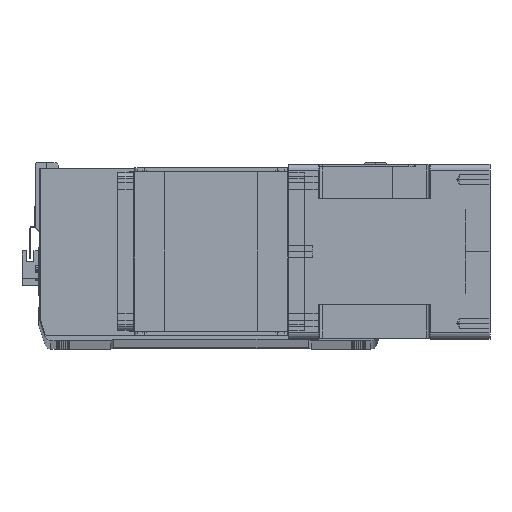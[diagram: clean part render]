
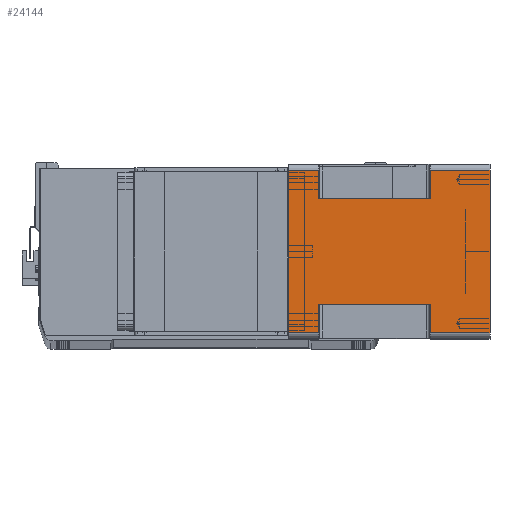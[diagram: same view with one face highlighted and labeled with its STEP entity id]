
A CAD part, top view. The second image highlights one B-rep face of the part: STEP entity #24144.
In plain terms, the highlighted planar face has unit normal (0, 0, 1) as drawn and (1, 0, 0) by its records, which use the part's own axes.
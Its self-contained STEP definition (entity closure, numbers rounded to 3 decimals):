
#107 = DIRECTION ( 'NONE',  ( 1., 0., 0. ) ) ;
#135 = LINE ( 'NONE', #29041, #17136 ) ;
#602 = CARTESIAN_POINT ( 'NONE',  ( 71., 43., -24.5 ) ) ;
#1054 = CARTESIAN_POINT ( 'NONE',  ( 71., 66., -24.5 ) ) ;
#1291 = DIRECTION ( 'NONE',  ( 0., 0., 1. ) ) ;
#1598 = VECTOR ( 'NONE', #9792, 1000. ) ;
#1782 = VERTEX_POINT ( 'NONE', #5191 ) ;
#2023 = AXIS2_PLACEMENT_3D ( 'NONE', #20601, #107, #26357 ) ;
#2716 = VERTEX_POINT ( 'NONE', #19302 ) ;
#3327 = DIRECTION ( 'NONE',  ( 0., -1., 0. ) ) ;
#3559 = ORIENTED_EDGE ( 'NONE', *, *, #34619, .T. ) ;
#3997 = EDGE_CURVE ( 'NONE', #12936, #17379, #27532, .T. ) ;
#4161 = DIRECTION ( 'NONE',  ( 0., -1., 0. ) ) ;
#4387 = VECTOR ( 'NONE', #3327, 1000. ) ;
#5191 = CARTESIAN_POINT ( 'NONE',  ( 71., -66., -24.5 ) ) ;
#5388 = CARTESIAN_POINT ( 'NONE',  ( 71., -66., -164. ) ) ;
#5636 = VECTOR ( 'NONE', #26874, 1000. ) ;
#5668 = LINE ( 'NONE', #12885, #1598 ) ;
#5835 = EDGE_CURVE ( 'NONE', #10670, #25556, #6747, .T. ) ;
#6509 = ORIENTED_EDGE ( 'NONE', *, *, #34955, .F. ) ;
#6540 = ORIENTED_EDGE ( 'NONE', *, *, #31859, .T. ) ;
#6692 = ORIENTED_EDGE ( 'NONE', *, *, #35191, .T. ) ;
#6747 = LINE ( 'NONE', #32721, #36249 ) ;
#6752 = ORIENTED_EDGE ( 'NONE', *, *, #5835, .T. ) ;
#7086 = DIRECTION ( 'NONE',  ( 0., 1., 0. ) ) ;
#7196 = LINE ( 'NONE', #25032, #22368 ) ;
#7303 = LINE ( 'NONE', #26083, #14425 ) ;
#7844 = CARTESIAN_POINT ( 'NONE',  ( 71., -66., -164. ) ) ;
#8033 = CARTESIAN_POINT ( 'NONE',  ( 71., 43., -164. ) ) ;
#8584 = CARTESIAN_POINT ( 'NONE',  ( 71., -43., -115.5 ) ) ;
#8777 = EDGE_CURVE ( 'NONE', #12936, #27634, #5668, .T. ) ;
#9486 = VERTEX_POINT ( 'NONE', #7844 ) ;
#9792 = DIRECTION ( 'NONE',  ( 0., 1., 0. ) ) ;
#10670 = VERTEX_POINT ( 'NONE', #31101 ) ;
#10794 = EDGE_CURVE ( 'NONE', #9486, #27505, #7303, .T. ) ;
#10865 = ORIENTED_EDGE ( 'NONE', *, *, #20574, .F. ) ;
#11503 = CARTESIAN_POINT ( 'NONE',  ( 71., 43., -115.5 ) ) ;
#11740 = PLANE ( 'NONE',  #2023 ) ;
#11909 = EDGE_CURVE ( 'NONE', #27634, #2716, #135, .T. ) ;
#12302 = VERTEX_POINT ( 'NONE', #29435 ) ;
#12885 = CARTESIAN_POINT ( 'NONE',  ( 71., -66., -24.5 ) ) ;
#12888 = LINE ( 'NONE', #5388, #16934 ) ;
#12936 = VERTEX_POINT ( 'NONE', #602 ) ;
#13194 = LINE ( 'NONE', #15450, #5636 ) ;
#13326 = EDGE_CURVE ( 'NONE', #1782, #26292, #12888, .T. ) ;
#13845 = EDGE_LOOP ( 'NONE', ( #6509, #6540, #17906, #3559, #6752, #23940, #24368, #33366, #21914, #10865, #21846, #6692 ) ) ;
#14393 = LINE ( 'NONE', #18456, #20193 ) ;
#14425 = VECTOR ( 'NONE', #31969, 1000. ) ;
#15450 = CARTESIAN_POINT ( 'NONE',  ( 71., -43., -24.5 ) ) ;
#16261 = DIRECTION ( 'NONE',  ( 0., 1., 0. ) ) ;
#16934 = VECTOR ( 'NONE', #25505, 1000. ) ;
#17136 = VECTOR ( 'NONE', #35154, 1000. ) ;
#17379 = VERTEX_POINT ( 'NONE', #31297 ) ;
#17381 = FACE_OUTER_BOUND ( 'NONE', #13845, .T. ) ;
#17906 = ORIENTED_EDGE ( 'NONE', *, *, #10794, .F. ) ;
#18289 = LINE ( 'NONE', #11503, #4387 ) ;
#18360 = CARTESIAN_POINT ( 'NONE',  ( 71., -66., 0. ) ) ;
#18456 = CARTESIAN_POINT ( 'NONE',  ( 71., -66., 0. ) ) ;
#19302 = CARTESIAN_POINT ( 'NONE',  ( 71., 66., 0. ) ) ;
#20193 = VECTOR ( 'NONE', #7086, 1000. ) ;
#20574 = EDGE_CURVE ( 'NONE', #26292, #2716, #14393, .T. ) ;
#20601 = CARTESIAN_POINT ( 'NONE',  ( 71., -66., -164. ) ) ;
#21846 = ORIENTED_EDGE ( 'NONE', *, *, #13326, .F. ) ;
#21914 = ORIENTED_EDGE ( 'NONE', *, *, #11909, .T. ) ;
#22219 = DIRECTION ( 'NONE',  ( 0., 0., 1. ) ) ;
#22368 = VECTOR ( 'NONE', #16261, 1000. ) ;
#23503 = LINE ( 'NONE', #30612, #36902 ) ;
#23940 = ORIENTED_EDGE ( 'NONE', *, *, #31197, .T. ) ;
#24144 = ADVANCED_FACE ( 'NONE', ( #17381 ), #11740, .T. ) ;
#24287 = CARTESIAN_POINT ( 'NONE',  ( 71., -66., -115.5 ) ) ;
#24368 = ORIENTED_EDGE ( 'NONE', *, *, #3997, .F. ) ;
#25032 = CARTESIAN_POINT ( 'NONE',  ( 71., -66., -164. ) ) ;
#25505 = DIRECTION ( 'NONE',  ( 0., 0., 1. ) ) ;
#25556 = VERTEX_POINT ( 'NONE', #30839 ) ;
#26083 = CARTESIAN_POINT ( 'NONE',  ( 71., -66., -164. ) ) ;
#26292 = VERTEX_POINT ( 'NONE', #18360 ) ;
#26357 = DIRECTION ( 'NONE',  ( 0., 1., 0. ) ) ;
#26613 = VECTOR ( 'NONE', #36866, 1000. ) ;
#26874 = DIRECTION ( 'NONE',  ( 0., 1., 0. ) ) ;
#27505 = VERTEX_POINT ( 'NONE', #32096 ) ;
#27532 = LINE ( 'NONE', #8033, #26613 ) ;
#27634 = VERTEX_POINT ( 'NONE', #1054 ) ;
#28077 = VECTOR ( 'NONE', #4161, 1000. ) ;
#29041 = CARTESIAN_POINT ( 'NONE',  ( 71., 66., -164. ) ) ;
#29435 = CARTESIAN_POINT ( 'NONE',  ( 71., -43., -24.5 ) ) ;
#30612 = CARTESIAN_POINT ( 'NONE',  ( 71., -43., -164. ) ) ;
#30839 = CARTESIAN_POINT ( 'NONE',  ( 71., 66., -115.5 ) ) ;
#31101 = CARTESIAN_POINT ( 'NONE',  ( 71., 66., -164. ) ) ;
#31197 = EDGE_CURVE ( 'NONE', #25556, #17379, #18289, .T. ) ;
#31297 = CARTESIAN_POINT ( 'NONE',  ( 71., 43., -115.5 ) ) ;
#31859 = EDGE_CURVE ( 'NONE', #36983, #27505, #32076, .T. ) ;
#31969 = DIRECTION ( 'NONE',  ( 0., 0., 1. ) ) ;
#32076 = LINE ( 'NONE', #24287, #28077 ) ;
#32096 = CARTESIAN_POINT ( 'NONE',  ( 71., -66., -115.5 ) ) ;
#32721 = CARTESIAN_POINT ( 'NONE',  ( 71., 66., -164. ) ) ;
#33366 = ORIENTED_EDGE ( 'NONE', *, *, #8777, .T. ) ;
#34619 = EDGE_CURVE ( 'NONE', #9486, #10670, #7196, .T. ) ;
#34955 = EDGE_CURVE ( 'NONE', #36983, #12302, #23503, .T. ) ;
#35154 = DIRECTION ( 'NONE',  ( 0., 0., 1. ) ) ;
#35191 = EDGE_CURVE ( 'NONE', #1782, #12302, #13194, .T. ) ;
#36249 = VECTOR ( 'NONE', #1291, 1000. ) ;
#36866 = DIRECTION ( 'NONE',  ( 0., 0., -1. ) ) ;
#36902 = VECTOR ( 'NONE', #22219, 1000. ) ;
#36983 = VERTEX_POINT ( 'NONE', #8584 ) ;
